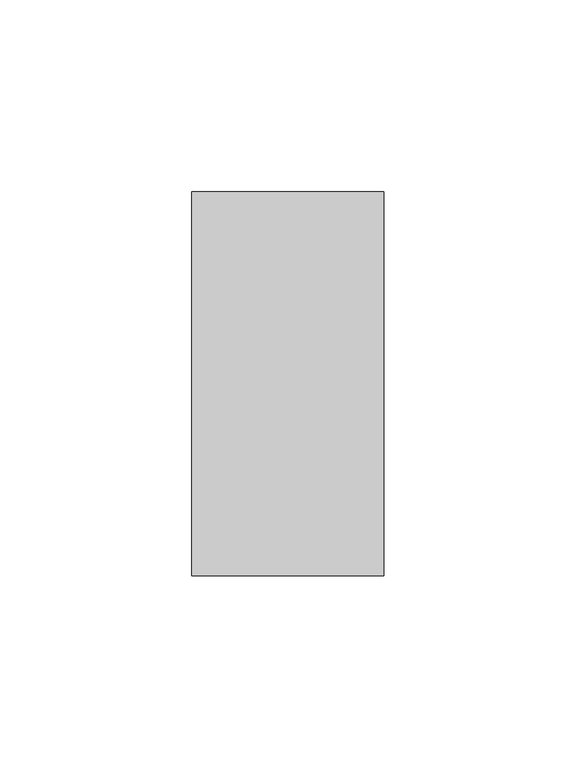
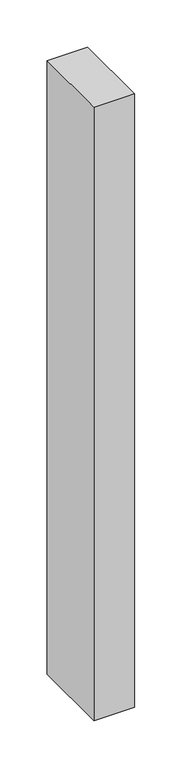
"""IFC4 building model written with IfcOpenShell, lengths in millimetres: member geometry, Прямоугольный импост : 50х100."""

from ifc_helpers import new_model, si_unit, frame, origin, place, context, project, spatial, polyline, outline, extrude, source, transform, mapped, element, save


def member_5b34e0f5(model_context):
    return source(origin(), model_context, "Body", "SweptSolid", [
        extrude(outline(polyline([(0.0, 50.0), (0.0, -50.0), (-50.0, -50.0), (-50.0, 50.0), (0.0, 50.0)])), frame((0.0, 0.0, -795.0), z_axis=(0.0, 0.0, 1.0), x_axis=(1.0, 0.0, 0.0)), (0.0, 0.0, 1.0), 795.0),
    ])


if __name__ == "__main__":
    model = new_model("IFC4")
    model_context = context("Model", 3, world=origin())
    ifc_project = project(units=[si_unit("LENGTHUNIT", "METRE", prefix="MILLI")], contexts=[model_context])
    site = spatial("IfcSite", under=ifc_project)
    building = spatial("IfcBuilding", under=site)
    placement = place(None, origin())
    member_shape = member_5b34e0f5(model_context)
    element("IfcMember", 1, ObjectType="Прямоугольный импост : 50х100", at=placement, inside=building, context=model_context, shape_type="MappedRepresentation", body=[
        mapped(member_shape, transform((0.0, 0.0, 0.0), x_axis=(1.0, 0.0, 0.0), y_axis=(0.0, 1.0, 0.0), z_axis=(0.0, 0.0, 1.0))),
    ])
    save(model, "model.ifc")
